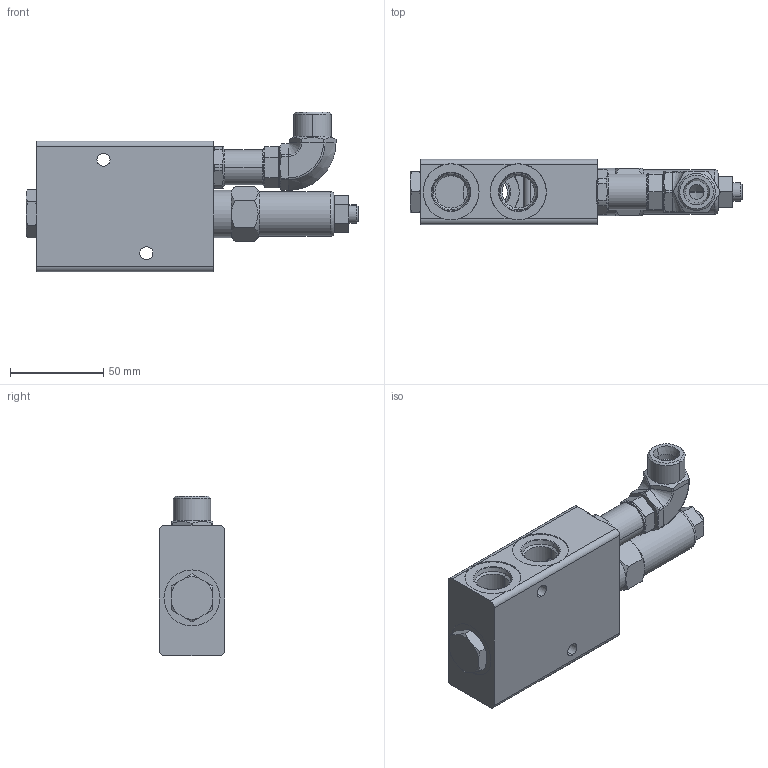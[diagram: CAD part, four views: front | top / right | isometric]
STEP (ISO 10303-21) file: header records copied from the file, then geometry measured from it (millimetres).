
FILE_DESCRIPTION (( 'STEP AP214' ), '1' );
FILE_NAME ('VCS34005.STEP', '2025-05-14T00:57:38', ( '' ), ( '' ), 'SwSTEP 2.0', 'SolidWorks 2023', '' );
FILE_SCHEMA (( 'AUTOMOTIVE_DESIGN' ));
Length unit declared in the file: millimetre
Products named in the file (1): VCS34005
Bounding box: 177.83 x 35 x 85.5 mm (x, y, z)
Surface area: 42625.2 mm2 (no closed solid volume)
Topology: 0 solids, 8 shells, 225 faces, 584 edges, 368 vertices
Faces by surface type: plane 88, cylinder 64, cone 54, torus 19
Entity records: 7389 total; most frequent: CARTESIAN_POINT 1923, DIRECTION 1177, ORIENTED_EDGE 1077, EDGE_CURVE 584, AXIS2_PLACEMENT_3D 466, VERTEX_POINT 368, EDGE_LOOP 246, VECTOR 245
